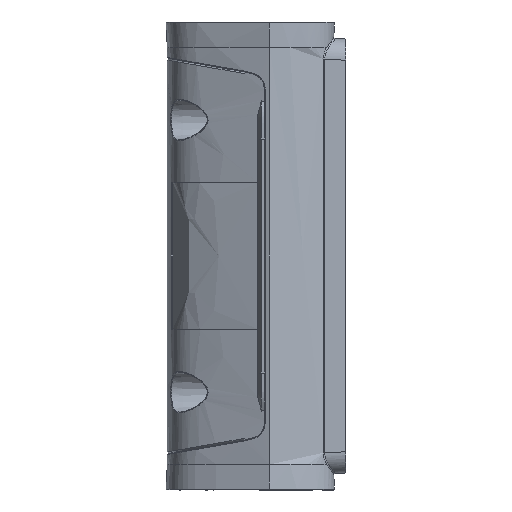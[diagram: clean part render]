
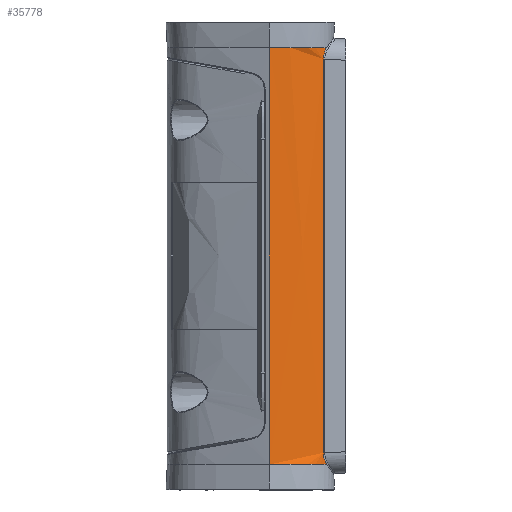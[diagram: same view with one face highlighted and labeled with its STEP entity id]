
A CAD part, left-side view. The second image highlights one B-rep face of the part: STEP entity #35778.
In plain terms, the highlighted free-form (B-spline) face has degree [2, 1] with [3, 2] control points.
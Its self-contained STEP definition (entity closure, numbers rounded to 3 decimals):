
#75 = CARTESIAN_POINT ( 'NONE',  ( -126.41, -8.169, 62.23 ) ) ;
#1392 = CARTESIAN_POINT ( 'NONE',  ( -120.271, -21.645, 61.19 ) ) ;
#1505 = VERTEX_POINT ( 'NONE', #17828 ) ;
#1705 = DIRECTION ( 'NONE',  ( 0., 0., 1. ) ) ;
#2390 = CARTESIAN_POINT ( 'NONE',  ( -120.271, -21.644, -61.189 ) ) ;
#3983 = CARTESIAN_POINT ( 'NONE',  ( -120.886, -21.039, 62.23 ) ) ;
#4471 = CARTESIAN_POINT ( 'NONE',  ( -125.839, -10.458, -62.23 ) ) ;
#4558 = CARTESIAN_POINT ( 'NONE',  ( -123.461, -17.087, 62.23 ) ) ;
#5413 = CARTESIAN_POINT ( 'NONE',  ( -124.719, -18.015, 62.23 ) ) ;
#7063 = CARTESIAN_POINT ( 'NONE',  ( -119.74, -22.117, -62.23 ) ) ;
#7641 = FACE_OUTER_BOUND ( 'NONE', #19994, .T. ) ;
#8171 = CARTESIAN_POINT ( 'NONE',  ( -124.107, -15.665, -62.23 ) ) ;
#8551 = CARTESIAN_POINT ( 'NONE',  ( -125.181, -12.725, -62.23 ) ) ;
#8651 = ORIENTED_EDGE ( 'NONE', *, *, #40612, .F. ) ;
#9677 = CARTESIAN_POINT ( 'NONE',  ( -124.719, -18.015, -62.23 ) ) ;
#11406 = LINE ( 'NONE', #26524, #46800 ) ;
#12441 = VERTEX_POINT ( 'NONE', #49453 ) ;
#12936 = CARTESIAN_POINT ( 'NONE',  ( -127., -5.08, 62.23 ) ) ;
#13232 = CARTESIAN_POINT ( 'NONE',  ( -123.461, -17.087, -62.23 ) ) ;
#13312 = CARTESIAN_POINT ( 'NONE',  ( -126.727, -6.629, 62.23 ) ) ;
#13504 = CARTESIAN_POINT ( 'NONE',  ( -124.4, -14.94, 62.23 ) ) ;
#13860 = CARTESIAN_POINT ( 'NONE',  ( -127., -5.08, -62.23 ) ) ;
#14068 = VECTOR ( 'NONE', #1705, 1000. ) ;
#14554 = CARTESIAN_POINT ( 'NONE',  ( -119.74, -22.117, 62.23 ) ) ;
#15079 = ORIENTED_EDGE ( 'NONE', *, *, #46786, .T. ) ;
#16740 = CARTESIAN_POINT ( 'NONE',  ( -119.74, -22.117, -62.23 ) ) ;
#16892 = CARTESIAN_POINT ( 'NONE',  ( -126.727, -6.629, -62.23 ) ) ;
#17099 = CARTESIAN_POINT ( 'NONE',  ( -120.886, -21.039, -62.23 ) ) ;
#17184 = CARTESIAN_POINT ( 'NONE',  ( -125.839, -10.458, 62.23 ) ) ;
#17561 = B_SPLINE_SURFACE_WITH_KNOTS ( 'NONE', 2, 1, ( 
 ( #36339, #23070 ),
 ( #9677, #5413 ),
 ( #32070, #36528 ) ),
 .UNSPECIFIED., .F., .F., .F.,
 ( 3, 3 ),
 ( 2, 2 ),
 ( 0., 0.679 ),
 ( 0., 1. ),
 .UNSPECIFIED. ) ;
#17828 = CARTESIAN_POINT ( 'NONE',  ( -120.687, -21.221, 58.76 ) ) ;
#18118 = CARTESIAN_POINT ( 'NONE',  ( -119.74, -22.117, 62.23 ) ) ;
#19994 = EDGE_LOOP ( 'NONE', ( #49652, #39544, #8651, #21435, #46120, #15079 ) ) ;
#20676 = B_SPLINE_CURVE_WITH_KNOTS ( 'NONE', 3,
 ( #29949, #16892, #39717, #4471, #39904, #8551, #43972, #26841, #8171, #13232, #44562, #26445, #35418, #17099, #48249, #44367 ),
 .UNSPECIFIED., .F., .F.,
 ( 4, 2, 2, 2, 2, 2, 2, 4 ),
 ( 0.012, 0.017, 0.019, 0.021, 0.024, 0.026, 0.028, 0.031 ),
 .UNSPECIFIED. ) ;
#21211 = B_SPLINE_CURVE_WITH_KNOTS ( 'NONE', 3,
 ( #50592, #45924, #31377, #1392, #53542, #22577 ),
 .UNSPECIFIED., .F., .F.,
 ( 4, 2, 4 ),
 ( 0., 0.002, 0.004 ),
 .UNSPECIFIED. ) ;
#21435 = ORIENTED_EDGE ( 'NONE', *, *, #33360, .F. ) ;
#22222 = DIRECTION ( 'NONE',  ( 0., 0., 1. ) ) ;
#22577 = CARTESIAN_POINT ( 'NONE',  ( -119.74, -22.117, 62.23 ) ) ;
#22631 = VERTEX_POINT ( 'NONE', #13860 ) ;
#22710 = B_SPLINE_CURVE_WITH_KNOTS ( 'NONE', 3,
 ( #7063, #29817, #2390, #46933, #38002, #51404 ),
 .UNSPECIFIED., .F., .F.,
 ( 4, 2, 4 ),
 ( 0., 0.002, 0.004 ),
 .UNSPECIFIED. ) ;
#23070 = CARTESIAN_POINT ( 'NONE',  ( -119.68, -22.167, 62.23 ) ) ;
#23365 = CARTESIAN_POINT ( 'NONE',  ( -120.347, -21.61, 62.23 ) ) ;
#26148 = CARTESIAN_POINT ( 'NONE',  ( -125.633, -11.219, 62.23 ) ) ;
#26445 = CARTESIAN_POINT ( 'NONE',  ( -122.311, -19.144, -62.23 ) ) ;
#26524 = CARTESIAN_POINT ( 'NONE',  ( -120.687, -21.221, -58.76 ) ) ;
#26841 = CARTESIAN_POINT ( 'NONE',  ( -124.4, -14.94, -62.23 ) ) ;
#29817 = CARTESIAN_POINT ( 'NONE',  ( -120.037, -21.869, -61.728 ) ) ;
#29949 = CARTESIAN_POINT ( 'NONE',  ( -127., -5.08, -62.23 ) ) ;
#31208 = CARTESIAN_POINT ( 'NONE',  ( -125.181, -12.725, 62.23 ) ) ;
#31377 = CARTESIAN_POINT ( 'NONE',  ( -120.601, -21.315, 60.009 ) ) ;
#31406 = CARTESIAN_POINT ( 'NONE',  ( -122.311, -19.144, 62.23 ) ) ;
#31735 = EDGE_CURVE ( 'NONE', #1505, #55373, #21211, .T. ) ;
#32070 = CARTESIAN_POINT ( 'NONE',  ( -127., -5.08, -62.23 ) ) ;
#33360 = EDGE_CURVE ( 'NONE', #22631, #35354, #55068, .T. ) ;
#33876 = EDGE_CURVE ( 'NONE', #22631, #39261, #20676, .T. ) ;
#35004 = CARTESIAN_POINT ( 'NONE',  ( -127., -5.08, 62.23 ) ) ;
#35354 = VERTEX_POINT ( 'NONE', #35004 ) ;
#35418 = CARTESIAN_POINT ( 'NONE',  ( -121.867, -19.809, -62.23 ) ) ;
#35778 = ADVANCED_FACE ( 'NONE', ( #7641 ), #17561, .T. ) ;
#36339 = CARTESIAN_POINT ( 'NONE',  ( -119.68, -22.167, -62.23 ) ) ;
#36528 = CARTESIAN_POINT ( 'NONE',  ( -127., -5.08, 62.23 ) ) ;
#38002 = CARTESIAN_POINT ( 'NONE',  ( -120.687, -21.221, -59.396 ) ) ;
#39261 = VERTEX_POINT ( 'NONE', #16740 ) ;
#39544 = ORIENTED_EDGE ( 'NONE', *, *, #31735, .T. ) ;
#39717 = CARTESIAN_POINT ( 'NONE',  ( -126.41, -8.169, -62.23 ) ) ;
#39796 = CARTESIAN_POINT ( 'NONE',  ( -121.867, -19.809, 62.23 ) ) ;
#39904 = CARTESIAN_POINT ( 'NONE',  ( -125.633, -11.219, -62.23 ) ) ;
#40612 = EDGE_CURVE ( 'NONE', #35354, #55373, #49395, .T. ) ;
#43972 = CARTESIAN_POINT ( 'NONE',  ( -124.937, -13.47, -62.23 ) ) ;
#44367 = CARTESIAN_POINT ( 'NONE',  ( -119.74, -22.117, -62.23 ) ) ;
#44562 = CARTESIAN_POINT ( 'NONE',  ( -123.106, -17.785, -62.23 ) ) ;
#44643 = CARTESIAN_POINT ( 'NONE',  ( -123.106, -17.785, 62.23 ) ) ;
#45342 = EDGE_CURVE ( 'NONE', #12441, #1505, #11406, .T. ) ;
#45924 = CARTESIAN_POINT ( 'NONE',  ( -120.687, -21.221, 59.396 ) ) ;
#46120 = ORIENTED_EDGE ( 'NONE', *, *, #33876, .T. ) ;
#46786 = EDGE_CURVE ( 'NONE', #39261, #12441, #22710, .T. ) ;
#46800 = VECTOR ( 'NONE', #22222, 1000. ) ;
#46933 = CARTESIAN_POINT ( 'NONE',  ( -120.601, -21.315, -60.008 ) ) ;
#48249 = CARTESIAN_POINT ( 'NONE',  ( -120.347, -21.61, -62.23 ) ) ;
#49395 = B_SPLINE_CURVE_WITH_KNOTS ( 'NONE', 3,
 ( #12936, #13312, #75, #17184, #26148, #31208, #57281, #13504, #57474, #4558, #44643, #31406, #39796, #3983, #23365, #18118 ),
 .UNSPECIFIED., .F., .F.,
 ( 4, 2, 2, 2, 2, 2, 2, 4 ),
 ( 0.012, 0.017, 0.019, 0.021, 0.024, 0.026, 0.028, 0.031 ),
 .UNSPECIFIED. ) ;
#49453 = CARTESIAN_POINT ( 'NONE',  ( -120.687, -21.221, -58.76 ) ) ;
#49652 = ORIENTED_EDGE ( 'NONE', *, *, #45342, .T. ) ;
#50592 = CARTESIAN_POINT ( 'NONE',  ( -120.687, -21.221, 58.76 ) ) ;
#51404 = CARTESIAN_POINT ( 'NONE',  ( -120.687, -21.221, -58.76 ) ) ;
#53542 = CARTESIAN_POINT ( 'NONE',  ( -120.037, -21.869, 61.728 ) ) ;
#55068 = LINE ( 'NONE', #55386, #14068 ) ;
#55373 = VERTEX_POINT ( 'NONE', #14554 ) ;
#55386 = CARTESIAN_POINT ( 'NONE',  ( -127., -5.08, -69.85 ) ) ;
#57281 = CARTESIAN_POINT ( 'NONE',  ( -124.937, -13.47, 62.23 ) ) ;
#57474 = CARTESIAN_POINT ( 'NONE',  ( -124.107, -15.665, 62.23 ) ) ;
